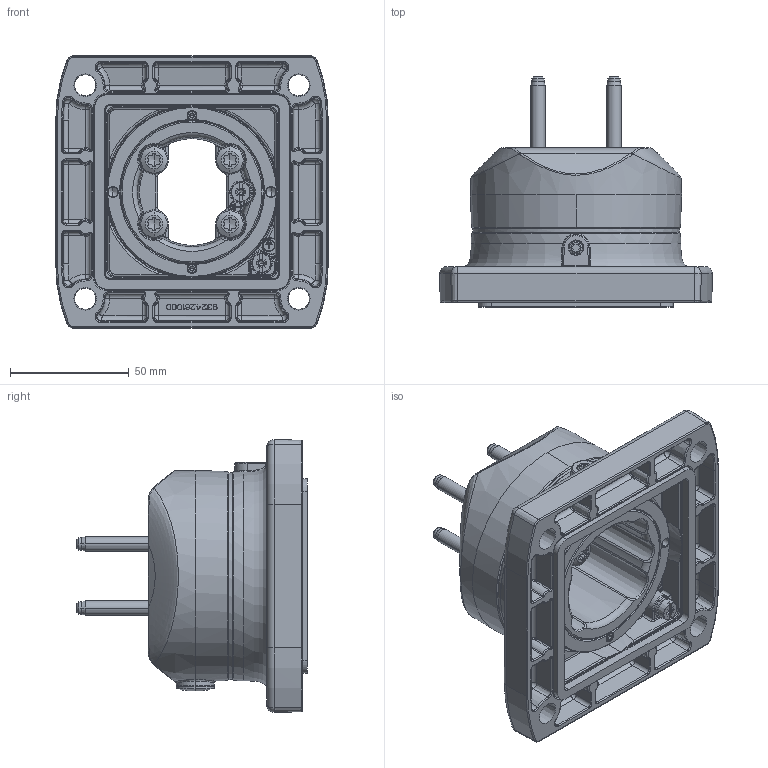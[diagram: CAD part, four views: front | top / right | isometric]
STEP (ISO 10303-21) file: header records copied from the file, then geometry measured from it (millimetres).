
FILE_DESCRIPTION((''),'2;1');
FILE_NAME('1015500021_ASM','2025-07-22T10:51:15',('Falk.Schoember'),(''),'CREO PARAMETRIC BY PTC INC, 2022124','CREO PARAMETRIC BY PTC INC, 2022124','');
FILE_SCHEMA(('AUTOMOTIVE_DESIGN { 1 0 10303 214 1 1 1 1 }'));
Products named in the file (36): 9324261000_AF1; EN_AC-47100-EN_AC-ALSI12CU_FE; 9261441000; 1_0402; 9620509000_ASM; 9641000009_ASM; 9371087000; POM_HOSTAFORM_C9021_GV1_10; 9231840000_AF12; NBR_70GR_SHORE_A; 9411111000_VG00290; CUSN6_HV_180_DIN_17670-1; 9324253000_AF1; 9620501000_ASM; 9641000001_ASM; 9371088000; 9502395000; 11SMNPB30; 9263051000; ST; 9432510000; PA66; 9222005000; KRÜLIT_825_T; 9263097000_GEW_STIFT; 1_0037; 9263097000_ASM; 9231841000; NBR_ZELLKAUTSCHUK; 9231844000; 9261655000; 1_4301; 1015500021_ASM
Assembly tree (25 placements, depth 4):
  EN_AC-47100-EN_AC-ALSI12CU_FE
  1_0402
  POM_HOSTAFORM_C9021_GV1_10
  NBR_70GR_SHORE_A
  CUSN6_HV_180_DIN_17670-1
Bounding box: 114.89 x 97.05 x 114.89 mm (x, y, z)
Volume: 299474.1 mm3; surface area: 127658.9 mm2
Topology: 20 solids, 20 shells, 2569 faces, 6513 edges, 4043 vertices
Faces by surface type: plane 1173, cylinder 508, bspline 422, cone 223, torus 210, sphere 32, revolution 1
Entity records: 129382 total; most frequent: CARTESIAN_POINT 38682, ORIENTED_EDGE 11846, DIRECTION 10385, PRESENTATION_STYLE_ASSIGNMENT 7925, STYLED_ITEM 7925, CURVE_STYLE 5924, EDGE_CURVE 5923, VERTEX_POINT 3680
